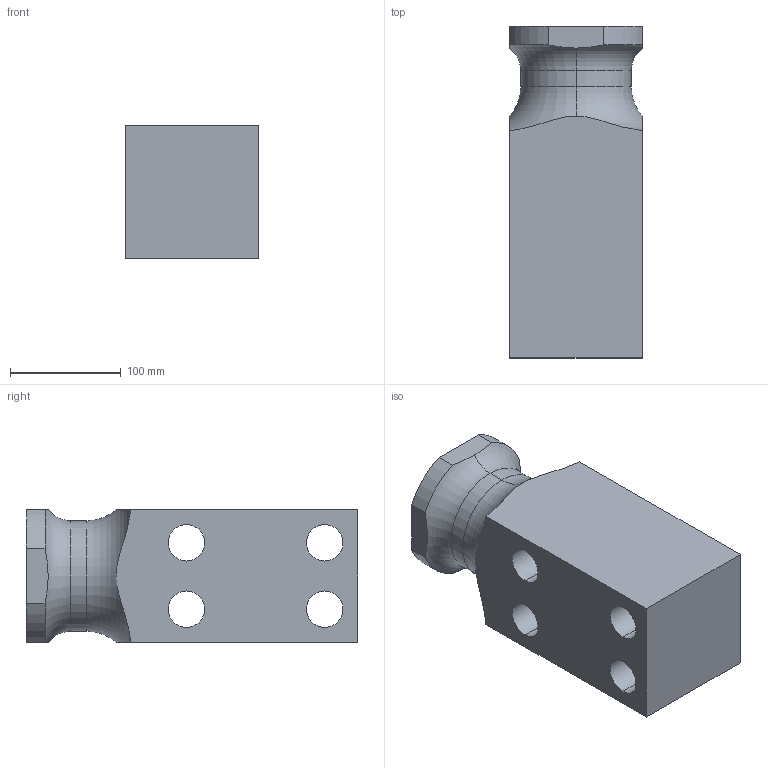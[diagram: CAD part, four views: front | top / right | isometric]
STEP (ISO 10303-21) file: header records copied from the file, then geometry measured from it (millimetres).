
FILE_DESCRIPTION(('CATIA V5 STEP Exchange'),'2;1');
FILE_NAME('C:\Users\Raffaele\Desktop\3D X SITO CF\PERNI -STAFFE SOLLEVAMENTO\395V\GSB_OILLESS_C10104120300\STEP-2.03\395V-04-120-300.stp','2019-07-03T12:49:23+00:00',('none'),('none'),'CATIA Version 5 Release 20 GA (IN-10)','CATIA V5 STEP AP203','none');
FILE_SCHEMA(('CONFIG_CONTROL_DESIGN'));
Length unit declared in the file: millimetre
Products named in the file (1): 395V-04-120-300
Bounding box: 120 x 300 x 120 mm (x, y, z)
Volume: 3376487.8 mm3; surface area: 212623.9 mm2
Topology: 1 solids, 1 shells, 40 faces, 146 edges, 112 vertices
Faces by surface type: cylinder 22, plane 14, torus 4
Entity records: 2044 total; most frequent: CARTESIAN_POINT 783, ORIENTED_EDGE 292, DIRECTION 186, EDGE_CURVE 146, VERTEX_POINT 112, AXIS2_PLACEMENT_3D 109, CIRCLE 68, EDGE_LOOP 52
